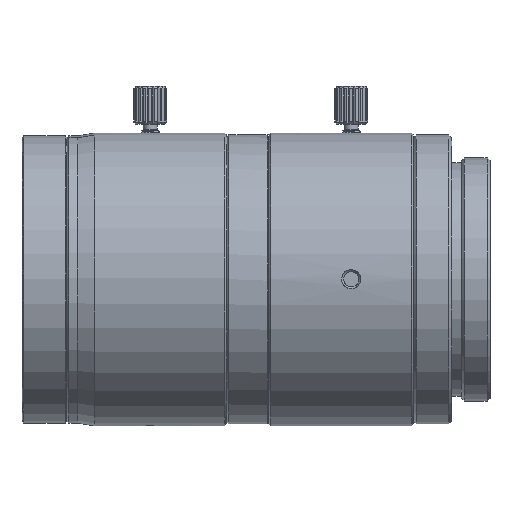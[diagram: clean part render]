
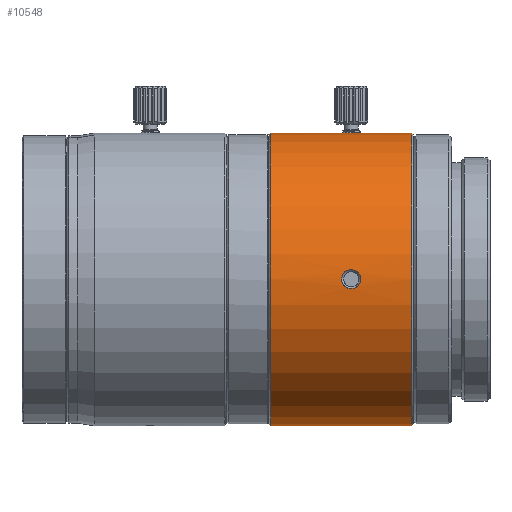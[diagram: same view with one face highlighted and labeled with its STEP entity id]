
A CAD part, top view. The second image highlights one B-rep face of the part: STEP entity #10548.
In plain terms, the highlighted cylindrical face has radius 15.3 mm (diameter 30.6 mm), a partial arc.
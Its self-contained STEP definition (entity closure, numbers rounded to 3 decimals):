
#10017=CARTESIAN_POINT('',(-5.5,15.3,0.));
#10018=CARTESIAN_POINT('',(-5.5,15.3,0.084));
#10019=CARTESIAN_POINT('',(-5.522,15.299,
0.247));
#10020=CARTESIAN_POINT('',(-5.621,15.293,
0.484));
#10021=CARTESIAN_POINT('',(-5.779,15.285,
0.687));
#10022=CARTESIAN_POINT('',(-5.987,15.277,
0.845));
#10023=CARTESIAN_POINT('',(-6.234,15.271,
0.946));
#10024=CARTESIAN_POINT('',(-6.499,15.269,
0.981));
#10025=CARTESIAN_POINT('',(-6.766,15.271,
0.946));
#10026=CARTESIAN_POINT('',(-7.011,15.277,
0.846));
#10027=CARTESIAN_POINT('',(-7.221,15.285,
0.687));
#10028=CARTESIAN_POINT('',(-7.379,15.293,
0.485));
#10029=CARTESIAN_POINT('',(-7.478,15.299,
0.247));
#10030=CARTESIAN_POINT('',(-7.5,15.3,0.084));
#10031=CARTESIAN_POINT('',(-7.5,15.3,0.));
#10033=CARTESIAN_POINT('',(-0.2,0.,0.));
#10034=DIRECTION('',(-1.,0.,0.));
#10035=DIRECTION('',(0.,-1.,0.));
#10036=AXIS2_PLACEMENT_3D('',#10033,#10034,#10035);
#10038=CARTESIAN_POINT('',(-14.9,0.,0.));
#10039=DIRECTION('',(-1.,0.,0.));
#10040=DIRECTION('',(0.,-1.,0.));
#10041=AXIS2_PLACEMENT_3D('',#10038,#10039,#10040);
#10043=CARTESIAN_POINT('',(-7.5,0.,15.3));
#10044=CARTESIAN_POINT('',(-7.5,0.075,15.3));
#10045=CARTESIAN_POINT('',(-7.483,0.222,
15.299));
#10046=CARTESIAN_POINT('',(-7.401,0.441,
15.294));
#10047=CARTESIAN_POINT('',(-7.272,0.629,
15.287));
#10048=CARTESIAN_POINT('',(-7.103,0.784,
15.28));
#10049=CARTESIAN_POINT('',(-6.906,0.895,
15.274));
#10050=CARTESIAN_POINT('',(-6.682,0.962,
15.27));
#10051=CARTESIAN_POINT('',(-6.442,0.978,
15.269));
#10052=CARTESIAN_POINT('',(-6.184,0.931,
15.272));
#10053=CARTESIAN_POINT('',(-5.951,0.823,
15.278));
#10054=CARTESIAN_POINT('',(-5.755,0.662,
15.286));
#10055=CARTESIAN_POINT('',(-5.611,0.465,
15.293));
#10056=CARTESIAN_POINT('',(-5.52,0.236,
15.299));
#10057=CARTESIAN_POINT('',(-5.5,0.08,15.3));
#10058=CARTESIAN_POINT('',(-5.5,0.,15.3));
#10060=CARTESIAN_POINT('',(-5.5,0.,15.3));
#10061=CARTESIAN_POINT('',(-5.5,-0.075,15.3));
#10062=CARTESIAN_POINT('',(-5.517,-0.223,
15.299));
#10063=CARTESIAN_POINT('',(-5.599,-0.441,
15.294));
#10064=CARTESIAN_POINT('',(-5.728,-0.63,
15.287));
#10065=CARTESIAN_POINT('',(-5.898,-0.785,
15.28));
#10066=CARTESIAN_POINT('',(-6.095,-0.896,
15.274));
#10067=CARTESIAN_POINT('',(-6.32,-0.963,
15.27));
#10068=CARTESIAN_POINT('',(-6.561,-0.978,
15.269));
#10069=CARTESIAN_POINT('',(-6.818,-0.93,
15.272));
#10070=CARTESIAN_POINT('',(-7.05,-0.822,
15.278));
#10071=CARTESIAN_POINT('',(-7.245,-0.661,
15.286));
#10072=CARTESIAN_POINT('',(-7.39,-0.464,
15.293));
#10073=CARTESIAN_POINT('',(-7.48,-0.236,
15.299));
#10074=CARTESIAN_POINT('',(-7.5,-0.08,15.3));
#10075=CARTESIAN_POINT('',(-7.5,0.,15.3));
#10111=DIRECTION('',(-1.,0.,0.));
#10112=VECTOR('',#10111,7.4);
#10113=CARTESIAN_POINT('',(-7.5,15.3,0.));
#10114=LINE('',#10113,#10112);
#10120=DIRECTION('',(-1.,0.,0.));
#10121=VECTOR('',#10120,14.7);
#10122=CARTESIAN_POINT('',(-0.2,-15.3,
0.));
#10123=LINE('',#10122,#10121);
#10129=DIRECTION('',(-1.,0.,0.));
#10130=VECTOR('',#10129,5.3);
#10131=CARTESIAN_POINT('',(-0.2,15.3,
0.));
#10132=LINE('',#10131,#10130);
#10423=CARTESIAN_POINT('',(-0.2,-15.3,0.));
#10424=CARTESIAN_POINT('',(-0.2,15.3,0.));
#10425=VERTEX_POINT('',#10423);
#10426=VERTEX_POINT('',#10424);
#10435=CARTESIAN_POINT('',(-14.9,-15.3,0.));
#10436=CARTESIAN_POINT('',(-14.9,15.3,0.));
#10437=VERTEX_POINT('',#10435);
#10438=VERTEX_POINT('',#10436);
#10467=VERTEX_POINT('',#10017);
#10468=VERTEX_POINT('',#10031);
#10475=VERTEX_POINT('',#10043);
#10476=VERTEX_POINT('',#10058);
#10524=CARTESIAN_POINT('',(-15.855,0.,0.));
#10525=DIRECTION('',(1.,0.,0.));
#10526=DIRECTION('',(0.,-1.,0.));
#10527=AXIS2_PLACEMENT_3D('',#10524,#10525,#10526);
#10528=CYLINDRICAL_SURFACE('',#10527,15.3);
#10530=ORIENTED_EDGE('',*,*,#10529,.F.);
#10532=ORIENTED_EDGE('',*,*,#10531,.F.);
#10533=ORIENTED_EDGE('',*,*,#10514,.F.);
#10535=ORIENTED_EDGE('',*,*,#10534,.T.);
#10537=ORIENTED_EDGE('',*,*,#10536,.T.);
#10539=ORIENTED_EDGE('',*,*,#10538,.F.);
#10540=EDGE_LOOP('',(#10530,#10532,#10533,#10535,#10537,#10539));
#10541=FACE_OUTER_BOUND('',#10540,.F.);
#10543=ORIENTED_EDGE('',*,*,#10542,.F.);
#10545=ORIENTED_EDGE('',*,*,#10544,.F.);
#10546=EDGE_LOOP('',(#10543,#10545));
#10547=FACE_BOUND('',#10546,.F.);
#10032=B_SPLINE_CURVE_WITH_KNOTS('',3,(#10017,#10018,#10019,#10020,#10021,
#10022,#10023,#10024,#10025,#10026,#10027,#10028,#10029,#10030,#10031),
.UNSPECIFIED.,.F.,.F.,(4,1,1,1,1,1,1,1,1,1,1,1,4),(0.,0.083,
0.167,0.25,0.333,0.417,0.5,
0.583,0.667,0.75,0.833,0.917,
1.),.UNSPECIFIED.);
#10037=CIRCLE('',#10036,15.3);
#10042=CIRCLE('',#10041,15.3);
#10059=B_SPLINE_CURVE_WITH_KNOTS('',3,(#10043,#10044,#10045,#10046,#10047,
#10048,#10049,#10050,#10051,#10052,#10053,#10054,#10055,#10056,#10057,#10058),
.UNSPECIFIED.,.F.,.F.,(4,1,1,1,1,1,1,1,1,1,1,1,1,4),(0.,0.077,
0.154,0.231,0.308,0.385,
0.462,0.538,0.615,0.692,
0.769,0.846,0.923,1.),.UNSPECIFIED.);
#10076=B_SPLINE_CURVE_WITH_KNOTS('',3,(#10060,#10061,#10062,#10063,#10064,
#10065,#10066,#10067,#10068,#10069,#10070,#10071,#10072,#10073,#10074,#10075),
.UNSPECIFIED.,.F.,.F.,(4,1,1,1,1,1,1,1,1,1,1,1,1,4),(0.,0.077,
0.154,0.231,0.308,0.385,
0.462,0.538,0.615,0.692,
0.769,0.846,0.923,1.),.UNSPECIFIED.);
#10514=EDGE_CURVE('',#10425,#10426,#10037,.T.);
#10529=EDGE_CURVE('',#10467,#10468,#10032,.T.);
#10531=EDGE_CURVE('',#10426,#10467,#10132,.T.);
#10534=EDGE_CURVE('',#10425,#10437,#10123,.T.);
#10536=EDGE_CURVE('',#10437,#10438,#10042,.T.);
#10538=EDGE_CURVE('',#10468,#10438,#10114,.T.);
#10542=EDGE_CURVE('',#10475,#10476,#10059,.T.);
#10544=EDGE_CURVE('',#10476,#10475,#10076,.T.);
#10548=ADVANCED_FACE('',(#10541,#10547),#10528,.T.);
